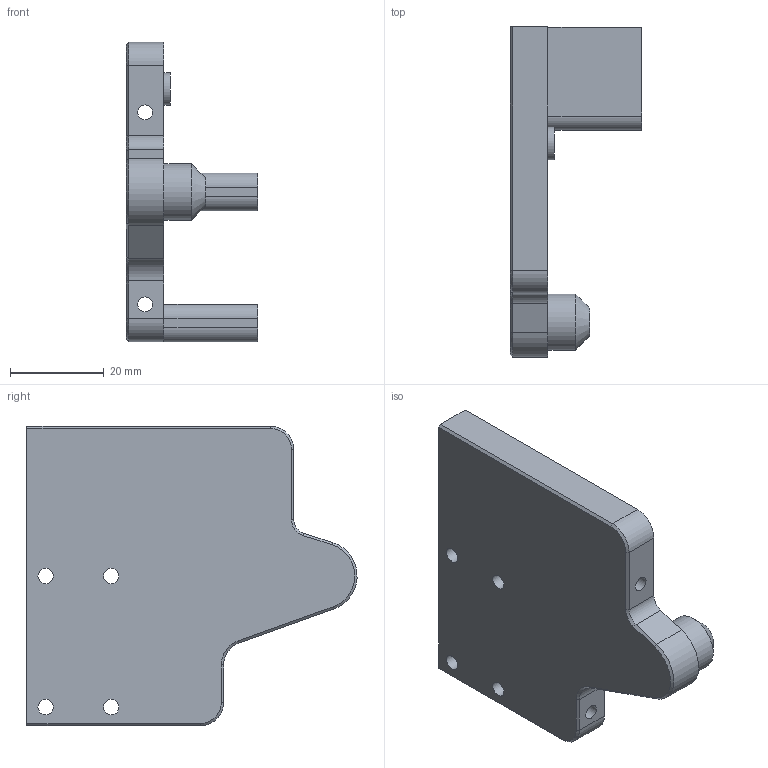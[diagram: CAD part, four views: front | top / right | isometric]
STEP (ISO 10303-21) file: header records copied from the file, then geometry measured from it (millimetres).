
FILE_DESCRIPTION(/* description */ (''),/* implementation_level */ '2;1');
FILE_NAME(/* name */ 'X:\Develop\CAD\NakataOmni\DriveUnitR3\WheelFrameAB_B.stp',/* time_stamp */ '2024-05-26T16:30:59+09:00',/* author */ ('kumagai'),/* organization */ (''),/* preprocessor_version */ 'ST-DEVELOPER v19',/* originating_system */ 'Autodesk Inventor 2023',/* authorisation */ '');
FILE_SCHEMA (('AUTOMOTIVE_DESIGN { 1 0 10303 214 3 1 1 }'));
Length unit declared in the file: millimetre
Products named in the file (1): WheelFrameAB-B
Bounding box: 28 x 70.48 x 64 mm (x, y, z)
Volume: 34101.9 mm3; surface area: 13985.8 mm2
Topology: 1 solids, 1 shells, 51 faces, 124 edges, 79 vertices
Faces by surface type: plane 26, cylinder 19, cone 6
Full cylindrical faces by diameter (mm): 3.2 x2, 3.3 x4, 4 x2, 7 x1, 12 x1
Entity records: 1561 total; most frequent: DIRECTION 272, CARTESIAN_POINT 255, ORIENTED_EDGE 248, EDGE_CURVE 124, AXIS2_PLACEMENT_3D 96, LINE 80, VECTOR 80, VERTEX_POINT 79
